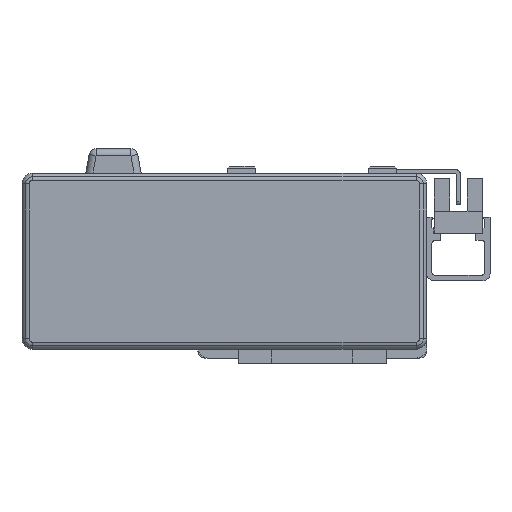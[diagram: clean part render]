
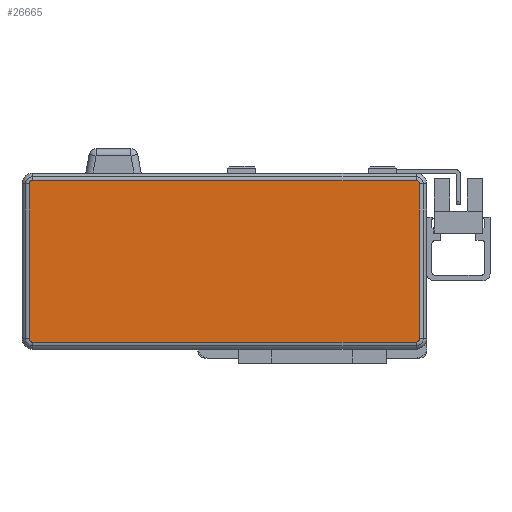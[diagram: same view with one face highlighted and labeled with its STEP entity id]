
A CAD part, left-side view. The second image highlights one B-rep face of the part: STEP entity #26665.
In plain terms, the highlighted planar face has unit normal (-1, 0, 0) as drawn and (0, 0, 1) by its records, which use the part's own axes.
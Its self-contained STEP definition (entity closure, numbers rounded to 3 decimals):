
#653 = DIRECTION ( 'NONE',  ( 0., -1., 0. ) ) ;
#749 = DIRECTION ( 'NONE',  ( -1., 0., 0. ) ) ;
#850 = DIRECTION ( 'NONE',  ( 0., 0., 1. ) ) ;
#858 = CARTESIAN_POINT ( 'NONE',  ( -54.5, 22., 40. ) ) ;
#979 = CARTESIAN_POINT ( 'NONE',  ( -55.5, 0., 40. ) ) ;
#1390 = DIRECTION ( 'NONE',  ( -1., 0., 0. ) ) ;
#2080 = FACE_OUTER_BOUND ( 'NONE', #7706, .T. ) ;
#2205 = CARTESIAN_POINT ( 'NONE',  ( 0., 23., 40. ) ) ;
#2256 = CARTESIAN_POINT ( 'NONE',  ( -54.5, -22., 40. ) ) ;
#2498 = DIRECTION ( 'NONE',  ( -1., 0., 0. ) ) ;
#2538 = DIRECTION ( 'NONE',  ( 0., 0., 1. ) ) ;
#2569 = CARTESIAN_POINT ( 'NONE',  ( 54.5, 22., 40. ) ) ;
#3795 = CARTESIAN_POINT ( 'NONE',  ( 55.5, 0., 40. ) ) ;
#3822 = DIRECTION ( 'NONE',  ( 0., 1., 0. ) ) ;
#4199 = DIRECTION ( 'NONE',  ( -1., 0., 0. ) ) ;
#4221 = DIRECTION ( 'NONE',  ( 0., 0., 1. ) ) ;
#4258 = CARTESIAN_POINT ( 'NONE',  ( 54.5, -22., 40. ) ) ;
#4756 = CARTESIAN_POINT ( 'NONE',  ( 0., -23., 40. ) ) ;
#4872 = DIRECTION ( 'NONE',  ( 1., 0., 0. ) ) ;
#4917 = VERTEX_POINT ( 'NONE', #26083 ) ;
#4967 = ORIENTED_EDGE ( 'NONE', *, *, #24508, .T. ) ;
#5447 = VERTEX_POINT ( 'NONE', #19104 ) ;
#5468 = ORIENTED_EDGE ( 'NONE', *, *, #24503, .T. ) ;
#6198 = ORIENTED_EDGE ( 'NONE', *, *, #24579, .T. ) ;
#6423 = ORIENTED_EDGE ( 'NONE', *, *, #24543, .T. ) ;
#6570 = ORIENTED_EDGE ( 'NONE', *, *, #24615, .T. ) ;
#7263 = ORIENTED_EDGE ( 'NONE', *, *, #24661, .T. ) ;
#7488 = ORIENTED_EDGE ( 'NONE', *, *, #24651, .T. ) ;
#7490 = DIRECTION ( 'NONE',  ( -1., 0., 0. ) ) ;
#7706 = EDGE_LOOP ( 'NONE', ( #5468, #4967, #6423, #6198, #6570, #7952, #7488, #7263 ) ) ;
#7940 = CARTESIAN_POINT ( 'NONE',  ( -55.5, 22., 40. ) ) ;
#7952 = ORIENTED_EDGE ( 'NONE', *, *, #24620, .T. ) ;
#10716 = VERTEX_POINT ( 'NONE', #18220 ) ;
#13429 = AXIS2_PLACEMENT_3D ( 'NONE', #23869, #19945, #7490 ) ;
#13589 = VECTOR ( 'NONE', #653, 1000. ) ;
#13614 = LINE ( 'NONE', #979, #13589 ) ;
#13714 = CIRCLE ( 'NONE', #22630, 1. ) ;
#13739 = CIRCLE ( 'NONE', #22440, 1. ) ;
#14313 = VECTOR ( 'NONE', #1390, 1000. ) ;
#14333 = LINE ( 'NONE', #2205, #14313 ) ;
#14693 = VECTOR ( 'NONE', #3822, 1000. ) ;
#14711 = LINE ( 'NONE', #3795, #14693 ) ;
#14766 = CIRCLE ( 'NONE', #22936, 1. ) ;
#14819 = VECTOR ( 'NONE', #4872, 1000. ) ;
#14907 = CIRCLE ( 'NONE', #23980, 1. ) ;
#15056 = LINE ( 'NONE', #4756, #14819 ) ;
#17232 = DIRECTION ( 'NONE',  ( 0., 0., 1. ) ) ;
#17829 = PLANE ( 'NONE',  #13429 ) ;
#18220 = CARTESIAN_POINT ( 'NONE',  ( -55.5, -22., 40. ) ) ;
#19104 = CARTESIAN_POINT ( 'NONE',  ( -54.5, -23., 40. ) ) ;
#19251 = DIRECTION ( 'NONE',  ( -1., 0., 0. ) ) ;
#19945 = DIRECTION ( 'NONE',  ( 0., 0., -1. ) ) ;
#20872 = CARTESIAN_POINT ( 'NONE',  ( -54.5, 23., 40. ) ) ;
#21964 = CARTESIAN_POINT ( 'NONE',  ( 55.5, 22., 40. ) ) ;
#22108 = VERTEX_POINT ( 'NONE', #25153 ) ;
#22215 = VERTEX_POINT ( 'NONE', #23201 ) ;
#22286 = VERTEX_POINT ( 'NONE', #21964 ) ;
#22364 = VERTEX_POINT ( 'NONE', #20872 ) ;
#22440 = AXIS2_PLACEMENT_3D ( 'NONE', #2256, #17232, #19251 ) ;
#22630 = AXIS2_PLACEMENT_3D ( 'NONE', #858, #850, #749 ) ;
#22936 = AXIS2_PLACEMENT_3D ( 'NONE', #2569, #2538, #2498 ) ;
#23114 = VERTEX_POINT ( 'NONE', #7940 ) ;
#23201 = CARTESIAN_POINT ( 'NONE',  ( 54.5, 23., 40. ) ) ;
#23869 = CARTESIAN_POINT ( 'NONE',  ( 0., 0., 40. ) ) ;
#23980 = AXIS2_PLACEMENT_3D ( 'NONE', #4258, #4221, #4199 ) ;
#24503 = EDGE_CURVE ( 'NONE', #5447, #4917, #15056, .T. ) ;
#24508 = EDGE_CURVE ( 'NONE', #4917, #22108, #14907, .T. ) ;
#24543 = EDGE_CURVE ( 'NONE', #22108, #22286, #14711, .T. ) ;
#24579 = EDGE_CURVE ( 'NONE', #22286, #22215, #14766, .T. ) ;
#24615 = EDGE_CURVE ( 'NONE', #22215, #22364, #14333, .T. ) ;
#24620 = EDGE_CURVE ( 'NONE', #22364, #23114, #13714, .T. ) ;
#24651 = EDGE_CURVE ( 'NONE', #23114, #10716, #13614, .T. ) ;
#24661 = EDGE_CURVE ( 'NONE', #10716, #5447, #13739, .T. ) ;
#25153 = CARTESIAN_POINT ( 'NONE',  ( 55.5, -22., 40. ) ) ;
#26083 = CARTESIAN_POINT ( 'NONE',  ( 54.5, -23., 40. ) ) ;
#26665 = ADVANCED_FACE ( 'NONE', ( #2080 ), #17829, .F. ) ;
